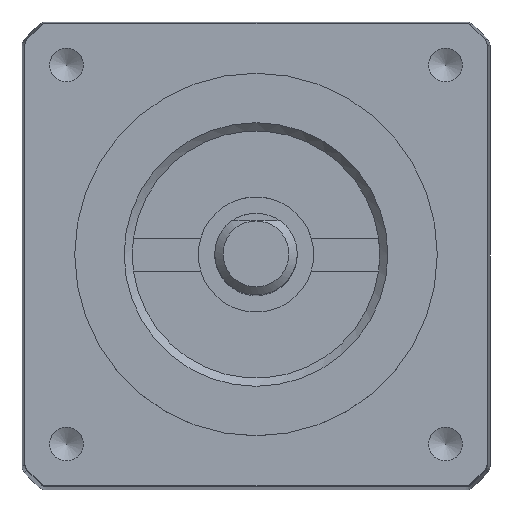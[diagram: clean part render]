
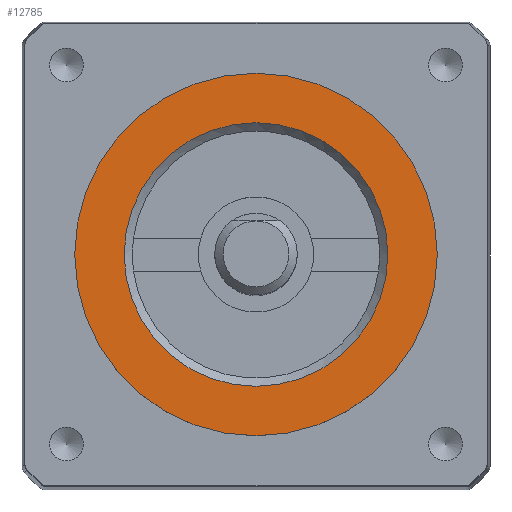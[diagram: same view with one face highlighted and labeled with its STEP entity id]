
A CAD part, top view. The second image highlights one B-rep face of the part: STEP entity #12785.
In plain terms, the highlighted planar face has unit normal (0, 0, 1).
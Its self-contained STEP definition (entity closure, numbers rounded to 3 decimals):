
#2297 = AXIS2_PLACEMENT_3D ( 'NONE', #16275, #51485, #37434 ) ;
#3037 = AXIS2_PLACEMENT_3D ( 'NONE', #52726, #41934, #33105 ) ;
#4170 = EDGE_LOOP ( 'NONE', ( #26261 ) ) ;
#12785 = ADVANCED_FACE ( 'NONE', ( #26555, #21074 ), #46173, .T. ) ;
#14529 = CARTESIAN_POINT ( 'NONE',  ( 8., 0., 33.6 ) ) ;
#16275 = CARTESIAN_POINT ( 'NONE',  ( 0., 0., 33.6 ) ) ;
#17837 = CIRCLE ( 'NONE', #2297, 8. ) ;
#21074 = FACE_OUTER_BOUND ( 'NONE', #4170, .T. ) ;
#21751 = DIRECTION ( 'NONE',  ( 1., 0., 0. ) ) ;
#22534 = EDGE_CURVE ( 'NONE', #59202, #59202, #17837, .T. ) ;
#26261 = ORIENTED_EDGE ( 'NONE', *, *, #60605, .T. ) ;
#26555 = FACE_BOUND ( 'NONE', #44691, .T. ) ;
#33105 = DIRECTION ( 'NONE',  ( 1., 0., 0. ) ) ;
#37434 = DIRECTION ( 'NONE',  ( 1., 0., 0. ) ) ;
#41934 = DIRECTION ( 'NONE',  ( 0., 0., 1. ) ) ;
#43302 = VERTEX_POINT ( 'NONE', #48849 ) ;
#43572 = ORIENTED_EDGE ( 'NONE', *, *, #22534, .F. ) ;
#44691 = EDGE_LOOP ( 'NONE', ( #43572 ) ) ;
#46173 = PLANE ( 'NONE',  #3037 ) ;
#46529 = DIRECTION ( 'NONE',  ( 0., 0., 1. ) ) ;
#48849 = CARTESIAN_POINT ( 'NONE',  ( 11., 0., 33.6 ) ) ;
#49397 = AXIS2_PLACEMENT_3D ( 'NONE', #56030, #46529, #21751 ) ;
#51485 = DIRECTION ( 'NONE',  ( 0., 0., 1. ) ) ;
#52726 = CARTESIAN_POINT ( 'NONE',  ( 0., 0., 33.6 ) ) ;
#56030 = CARTESIAN_POINT ( 'NONE',  ( 0., 0., 33.6 ) ) ;
#59202 = VERTEX_POINT ( 'NONE', #14529 ) ;
#60605 = EDGE_CURVE ( 'NONE', #43302, #43302, #60899, .T. ) ;
#60899 = CIRCLE ( 'NONE', #49397, 11. ) ;
